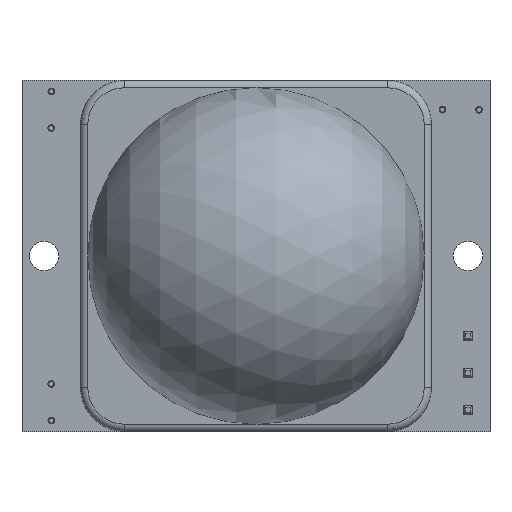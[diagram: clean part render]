
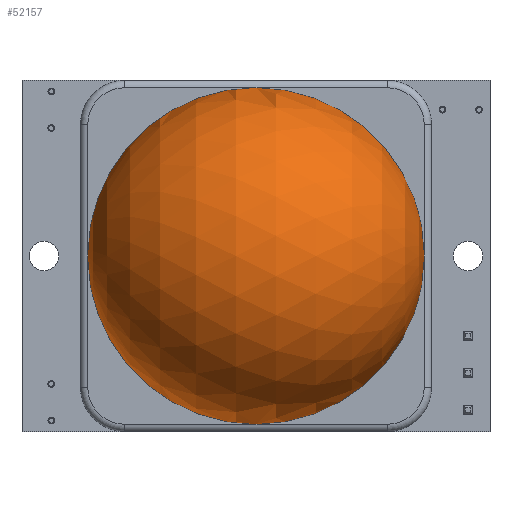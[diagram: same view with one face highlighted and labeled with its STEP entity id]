
A CAD part, front view. The second image highlights one B-rep face of the part: STEP entity #52157.
In plain terms, the highlighted spherical face has radius 11.5 mm.
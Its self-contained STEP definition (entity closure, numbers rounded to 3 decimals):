
#564=SPHERICAL_SURFACE('',#55952,11.5);
#5373=FACE_OUTER_BOUND('',#8486,.T.);
#8486=EDGE_LOOP('',(#37878,#37879,#37880,#37881));
#22225=CIRCLE('',#55953,11.5);
#22226=CIRCLE('',#55954,11.5);
#22227=CIRCLE('',#55955,11.5);
#22228=CIRCLE('',#55956,11.5);
#24091=VERTEX_POINT('',#75794);
#24092=VERTEX_POINT('',#75795);
#24093=VERTEX_POINT('',#75797);
#24094=VERTEX_POINT('',#75799);
#29286=EDGE_CURVE('',#24091,#24092,#22225,.T.);
#29287=EDGE_CURVE('',#24093,#24091,#22226,.T.);
#29288=EDGE_CURVE('',#24094,#24093,#22227,.T.);
#29289=EDGE_CURVE('',#24092,#24094,#22228,.T.);
#37878=ORIENTED_EDGE('',*,*,#29286,.F.);
#37879=ORIENTED_EDGE('',*,*,#29287,.F.);
#37880=ORIENTED_EDGE('',*,*,#29288,.F.);
#37881=ORIENTED_EDGE('',*,*,#29289,.F.);
#52157=ADVANCED_FACE('',(#5373),#564,.T.);
#55952=AXIS2_PLACEMENT_3D('',#75793,#61578,#61579);
#55953=AXIS2_PLACEMENT_3D('',#75796,#61580,#61581);
#55954=AXIS2_PLACEMENT_3D('',#75798,#61582,#61583);
#55955=AXIS2_PLACEMENT_3D('',#75800,#61584,#61585);
#55956=AXIS2_PLACEMENT_3D('',#75801,#61586,#61587);
#61578=DIRECTION('center_axis',(1.,0.,0.));
#61579=DIRECTION('ref_axis',(0.,0.,-1.));
#61580=DIRECTION('center_axis',(0.,-1.,0.));
#61581=DIRECTION('ref_axis',(0.,0.,-1.));
#61582=DIRECTION('center_axis',(0.,-1.,0.));
#61583=DIRECTION('ref_axis',(0.,0.,-1.));
#61584=DIRECTION('center_axis',(0.,-1.,0.));
#61585=DIRECTION('ref_axis',(0.,0.,-1.));
#61586=DIRECTION('center_axis',(0.,-1.,0.));
#61587=DIRECTION('ref_axis',(0.,0.,-1.));
#75793=CARTESIAN_POINT('Origin',(0.,2.,0.));
#75794=CARTESIAN_POINT('',(11.5,2.,0.));
#75795=CARTESIAN_POINT('',(0.,2.,11.5));
#75796=CARTESIAN_POINT('Origin',(0.,2.,0.));
#75797=CARTESIAN_POINT('',(0.,2.,-11.5));
#75798=CARTESIAN_POINT('Origin',(0.,2.,0.));
#75799=CARTESIAN_POINT('',(-11.5,2.,0.));
#75800=CARTESIAN_POINT('Origin',(0.,2.,0.));
#75801=CARTESIAN_POINT('Origin',(0.,2.,0.));
